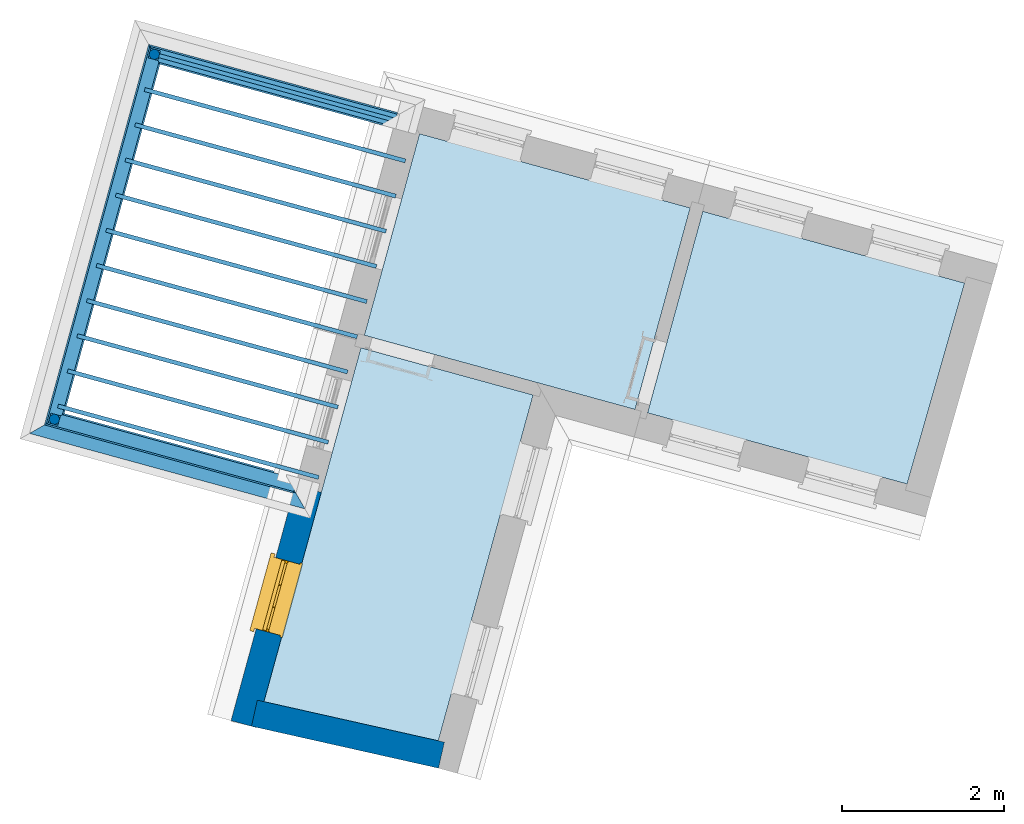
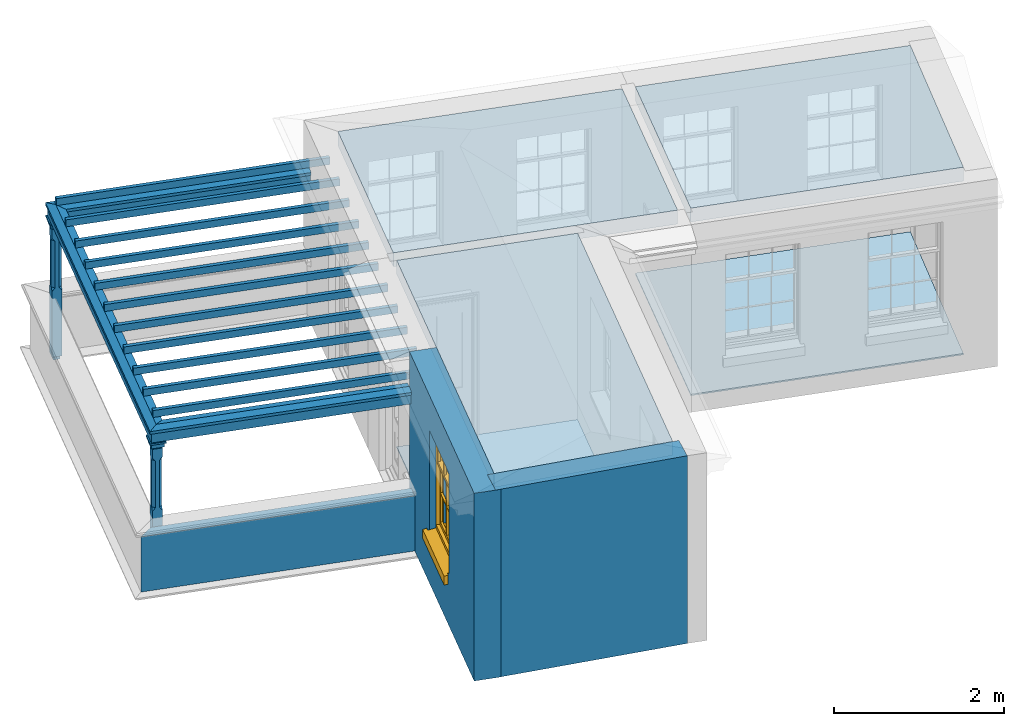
# One storey, part 1 of 5: 17 beams, 5 slabs, 3 walls, 2 columns, 1 window, 1 opening.
"""IFC4 building model written with IfcOpenShell, lengths in metres."""

from ifc_helpers import new_model, si_unit, frame, origin, origin_with_axes, place, context, subcontext, project, spatial, polyline, outline, extrude, clip, halfspace, faceted_brep, source, transform, mapped, material, layer, layer_set, layer_usage, material_profile, profile_set, profile_usage, type_object, type_shapes, element, fill, save


model = new_model("IFC4")

# Units and contexts
model_context = context("Model", 3, world=origin_with_axes())
body_context = subcontext(model_context, "Body", "Model", "MODEL_VIEW")
ifc_project = project(units=[si_unit("PLANEANGLEUNIT", "RADIAN"), si_unit("MASSUNIT", "GRAM", prefix="KILO"), si_unit("FORCEUNIT", "NEWTON", prefix="KILO"), si_unit("LENGTHUNIT", "METRE"), si_unit("AREAUNIT", "SQUARE_METRE"), si_unit("VOLUMEUNIT", "CUBIC_METRE")], contexts=[model_context, model_context])

# Sites, building, storey
site_1_placement = place(None, origin_with_axes())
site_1 = spatial("IfcSite", under=ifc_project, at=site_1_placement, Name="Tamar")
site_2_placement = place(site_1_placement, origin_with_axes())
site_2 = spatial("IfcSite", under=site_1, at=site_2_placement, Name="Site plot-29", CompositionType="ELEMENT")
building_placement = place(None, origin_with_axes())
building = spatial("IfcBuilding", under=site_2, at=building_placement, Name="Building plot-29", CompositionType="ELEMENT")
storey_placement = place(None, frame((0.0, 0.0, 30.55), z_axis=(0.0, 0.0, 1.0), x_axis=(1.0, 0.0, 0.0)))
storey = spatial("IfcBuildingStorey", under=building, at=storey_placement, Name="plot-29 2", CompositionType="ELEMENT", Elevation=30.55)

# Columns
column_type = type_object("IfcColumnType", Name="pergola post", PredefinedType="NOTDEFINED")
shared_shape_1 = source(origin(), body_context, "Body", "Brep", [
    faceted_brep([(0.0246, -0.0615, 1.72), (0.0615, -0.0246, 1.72), (0.0615, -0.0615, 1.766667), (0.0615, -0.0246, 1.044444), (0.0246, -0.0615, 1.044444), (0.0615, 0.0246, 1.72), (0.0615, 0.0615, 1.766667), (-0.0246, -0.0615, 1.72), (-0.0615, -0.0615, 1.766667), (-0.0246, -0.0615, 1.044444), (0.0615, -0.0615, 0.997778), (0.0615, 0.0246, 1.044444), (0.0246, 0.0615, 1.72), (0.0615, 0.0615, 1.891111), (0.0615, -0.0615, 1.891111), (-0.0615, -0.0615, 1.891111), (-0.0615, -0.0246, 1.72), (-0.0615, -0.0246, 1.044444), (-0.0615, -0.0615, 0.997778), (0.0615, 0.0615, 0.997778), (0.0246, 0.0615, 1.044444), (-0.0246, 0.0615, 1.72), (-0.0615, 0.0615, 1.766667), (0.04305, 0.04305, 1.891111), (0.04305, -0.04305, 1.891111), (-0.0615, 0.0615, 1.891111), (-0.04305, -0.04305, 1.891111), (-0.0615, 0.0246, 1.72), (-0.0615, 0.0246, 1.044444), (0.0615, -0.0615, 0.053333), (-0.0615, -0.0615, 0.053333), (0.0615, 0.0615, 0.053333), (-0.0246, 0.0615, 1.044444), (-0.04305, 0.04305, 1.891111), (0.04305, 0.04305, 1.914444), (0.04305, -0.04305, 1.914444), (-0.04305, -0.04305, 1.914444), (-0.0615, 0.0615, 0.997778), (-0.0615, 0.0615, 0.053333), (-0.04305, -0.04305, 0.053333), (0.04305, -0.04305, 0.053333), (0.04305, 0.04305, 0.053333), (-0.04305, 0.04305, 1.914444), (0.07995, 0.07995, 1.914444), (0.07995, -0.07995, 1.914444), (-0.07995, -0.07995, 1.914444), (-0.04305, 0.04305, 0.053333), (-0.04305, -0.04305, 0.0), (0.04305, -0.04305, 0.0), (0.04305, 0.04305, 0.0), (-0.07995, 0.07995, 1.914444), (0.07995, 0.07995, 1.976667), (0.07995, -0.07995, 1.976667), (-0.07995, -0.07995, 1.976667), (-0.04305, 0.04305, 0.0), (-0.07995, 0.07995, 1.976667), (0.0984, 0.0984, 1.976667), (0.0984, -0.0984, 1.976667), (-0.0984, -0.0984, 1.976667), (-0.0984, 0.0984, 1.976667), (0.0984, 0.0984, 2.0), (0.0984, -0.0984, 2.0), (-0.0984, -0.0984, 2.0), (-0.0984, 0.0984, 2.0)], [[[0, 1, 2]], [[3, 1, 0, 4]], [[1, 5, 6, 2]], [[7, 0, 2, 8]], [[4, 0, 7, 9]], [[3, 4, 10]], [[1, 3, 11, 5]], [[5, 12, 6]], [[13, 14, 2, 6]], [[15, 8, 2, 14]], [[8, 16, 7]], [[9, 7, 16, 17]], [[9, 18, 10, 4]], [[3, 10, 19, 11]], [[20, 12, 5, 11]], [[21, 22, 6, 12]], [[14, 13, 23, 24]], [[13, 6, 22, 25]], [[25, 22, 8, 15]], [[26, 15, 14, 24]], [[16, 8, 22, 27]], [[27, 28, 17, 16]], [[17, 18, 9]], [[29, 10, 18, 30]], [[31, 19, 10, 29]], [[20, 11, 19]], [[12, 20, 32, 21]], [[21, 27, 22]], [[33, 23, 13, 25]], [[23, 34, 35, 24]], [[26, 33, 25, 15]], [[36, 26, 24, 35]], [[28, 27, 21, 32]], [[17, 28, 37, 18]], [[38, 30, 18, 37]], [[29, 30, 39, 40]], [[31, 38, 37, 19]], [[40, 41, 31, 29]], [[32, 20, 19, 37]], [[33, 42, 34, 23]], [[43, 44, 35, 34]], [[42, 33, 26, 36]], [[36, 35, 44, 45]], [[28, 32, 37]], [[46, 39, 30, 38]], [[39, 47, 48, 40]], [[46, 38, 31, 41]], [[49, 41, 40, 48]], [[43, 34, 42, 50]], [[43, 51, 52, 44]], [[45, 50, 42, 36]], [[53, 45, 44, 52]], [[46, 54, 47, 39]], [[54, 46, 41, 49]], [[50, 55, 51, 43]], [[56, 57, 52, 51]], [[55, 50, 45, 53]], [[53, 52, 57, 58]], [[56, 51, 55, 59]], [[56, 60, 61, 57]], [[58, 59, 55, 53]], [[62, 58, 57, 61]], [[59, 63, 60, 56]], [[63, 62, 61, 60]], [[58, 62, 63, 59]], [[47, 54, 49, 48]]]),
])
type_shapes(column_type, [shared_shape_1])
for number, where, z_axis, x_axis, name in (
    (1, (271.068303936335, 266.055136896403, 0.0), (0.0, 0.0, 1.0), (-0.264255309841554, -0.964452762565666, 0.0), "pergola post"),
    (2, (269.834483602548, 261.552062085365, 0.0), (0.0, 0.0, 1.0), (0.96445276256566, -0.264255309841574, 0.0), "pergola post"),
):
    element("IfcColumn", number, at=place(storey_placement, frame(where, z_axis=z_axis, x_axis=x_axis)), inside=storey, type_object=column_type, Name=name, context=body_context, shape_type="MappedRepresentation", body=[
        mapped(shared_shape_1, transform((0.0, 0.0, 0.0), scale=1.0)),
    ])

# Beams
ifc_material_profile_1 = material_profile(None, outline(polyline([(-0.08, -0.7), (0.08, -0.7), (0.08, -0.56), (-0.08, -0.56), (-0.08, -0.7)])))
ifc_profile_set_1 = profile_set([ifc_material_profile_1])
ifc_profile_usage_1 = profile_usage(ifc_profile_set_1)
beam_type_1 = type_object("IfcBeamType", Name="pergola beam_0", PredefinedType="NOTDEFINED", material=ifc_profile_set_1)
beam_1_placement = place(storey_placement, frame((270.103851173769, 266.319392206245, 2.7), z_axis=(0.964452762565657, -0.264255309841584, 0.0), x_axis=(0.264255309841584, 0.964452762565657, 0.0)))
element("IfcBeam", 3, at=beam_1_placement, inside=storey, type_object=beam_type_1, material=ifc_profile_usage_1, Name="pergola beam_0", context=body_context, shape_type="Clipping", body=[
    clip(clip(extrude(outline(polyline([(-0.08, -0.7), (0.08, -0.7), (0.08, -0.56), (-0.08, -0.56), (-0.08, -0.7)])), origin_with_axes(), (0.0, 0.0, 1.0), 5.08559293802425), halfspace(frame((0.0, 0.0, 4.08559293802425), z_axis=(2.60330291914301e-15, 0.0, -1.0), x_axis=(0.0, 1.0, 0.0)), True)), halfspace(frame((0.0, 0.0, 1.0), z_axis=(-0.707106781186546, 0.0, -0.707106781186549), x_axis=(0.0, 1.0, 0.0)), False)),
])
ifc_profile_usage_2 = profile_usage(ifc_profile_set_1)
beam_2_placement = place(storey_placement, frame((269.570228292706, 260.587609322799, 2.7), z_axis=(0.264255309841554, 0.964452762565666, 0.0), x_axis=(-0.964452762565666, 0.264255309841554, 0.0)))
element("IfcBeam", 4, at=beam_2_placement, inside=storey, type_object=beam_type_1, material=ifc_profile_usage_2, Name="pergola beam_0", context=body_context, shape_type="Clipping", body=[
    clip(clip(extrude(outline(polyline([(-0.08, -0.7), (0.08, -0.7), (0.08, -0.56), (-0.08, -0.56), (-0.08, -0.7)])), origin_with_axes(), (0.0, 0.0, 1.0), 6.66904651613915), halfspace(frame((0.0, 0.0, 5.66904651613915), z_axis=(0.707106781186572, 0.0, -0.707106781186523), x_axis=(0.0, 1.0, 0.0)), True)), halfspace(frame((0.0, 0.0, 1.0), z_axis=(-0.707106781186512, 0.0, -0.707106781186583), x_axis=(0.0, 1.0, 0.0)), False)),
])
ifc_profile_usage_3 = profile_usage(ifc_profile_set_1)
beam_3_placement = place(storey_placement, frame((273.774844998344, 260.472422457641, 2.7), z_axis=(-0.964452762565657, 0.264255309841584, 0.0), x_axis=(-0.264255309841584, -0.964452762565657, 0.0)))
element("IfcBeam", 5, at=beam_3_placement, inside=storey, type_object=beam_type_1, material=ifc_profile_usage_3, Name="pergola beam_0", context=body_context, shape_type="Clipping", body=[
    clip(clip(extrude(outline(polyline([(-0.08, -0.7), (0.08, -0.7), (0.08, -0.56), (-0.08, -0.56), (-0.08, -0.7)])), origin_with_axes(), (0.0, 0.0, 1.0), 5.08559293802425), halfspace(frame((0.0, 0.0, 4.08559293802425), z_axis=(0.707106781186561, 0.0, -0.707106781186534), x_axis=(0.0, 1.0, 0.0)), True)), halfspace(frame((0.0, 0.0, 1.0), z_axis=(3.2694367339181e-15, 0.0, -1.0), x_axis=(0.0, 1.0, 0.0)), False)),
])
ifc_material_profile_2 = material_profile(None, outline(polyline([(0.0, -0.5), (-0.1, -0.52), (-0.1, -0.56), (0.1, -0.56), (0.1, -0.52), (0.0, -0.5)])))
ifc_profile_set_2 = profile_set([ifc_material_profile_2])
ifc_profile_usage_4 = profile_usage(ifc_profile_set_2)
beam_type_2 = type_object("IfcBeamType", Name="pergola beam_1", PredefinedType="NOTDEFINED", material=ifc_profile_set_2)
beam_4_placement = place(storey_placement, frame((270.103851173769, 266.319392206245, 2.7), z_axis=(0.964452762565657, -0.264255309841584, 0.0), x_axis=(0.264255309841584, 0.964452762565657, 0.0)))
element("IfcBeam", 6, at=beam_4_placement, inside=storey, type_object=beam_type_2, material=ifc_profile_usage_4, Name="pergola beam_1", context=body_context, shape_type="Clipping", body=[
    clip(clip(extrude(outline(polyline([(0.0, -0.5), (-0.1, -0.52), (-0.1, -0.56), (0.1, -0.56), (0.1, -0.52), (0.0, -0.5)])), origin_with_axes(), (0.0, 0.0, 1.0), 5.08559293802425), halfspace(frame((0.0, 0.0, 4.08559293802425), z_axis=(2.60330291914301e-15, 0.0, -1.0), x_axis=(0.0, 1.0, 0.0)), True)), halfspace(frame((0.0, 0.0, 1.0), z_axis=(-0.707106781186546, 0.0, -0.707106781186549), x_axis=(0.0, 1.0, 0.0)), False)),
])
ifc_profile_usage_5 = profile_usage(ifc_profile_set_2)
beam_5_placement = place(storey_placement, frame((269.570228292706, 260.587609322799, 2.7), z_axis=(0.264255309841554, 0.964452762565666, 0.0), x_axis=(-0.964452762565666, 0.264255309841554, 0.0)))
element("IfcBeam", 7, at=beam_5_placement, inside=storey, type_object=beam_type_2, material=ifc_profile_usage_5, Name="pergola beam_1", context=body_context, shape_type="Clipping", body=[
    clip(clip(extrude(outline(polyline([(0.0, -0.5), (-0.1, -0.52), (-0.1, -0.56), (0.1, -0.56), (0.1, -0.52), (0.0, -0.5)])), origin_with_axes(), (0.0, 0.0, 1.0), 6.66904651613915), halfspace(frame((0.0, 0.0, 5.66904651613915), z_axis=(0.707106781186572, 0.0, -0.707106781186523), x_axis=(0.0, 1.0, 0.0)), True)), halfspace(frame((0.0, 0.0, 1.0), z_axis=(-0.707106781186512, 0.0, -0.707106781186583), x_axis=(0.0, 1.0, 0.0)), False)),
])
ifc_profile_usage_6 = profile_usage(ifc_profile_set_2)
beam_6_placement = place(storey_placement, frame((273.774844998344, 260.472422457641, 2.7), z_axis=(-0.964452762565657, 0.264255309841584, 0.0), x_axis=(-0.264255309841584, -0.964452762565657, 0.0)))
element("IfcBeam", 8, at=beam_6_placement, inside=storey, type_object=beam_type_2, material=ifc_profile_usage_6, Name="pergola beam_1", context=body_context, shape_type="Clipping", body=[
    clip(clip(extrude(outline(polyline([(0.0, -0.5), (-0.1, -0.52), (-0.1, -0.56), (0.1, -0.56), (0.1, -0.52), (0.0, -0.5)])), origin_with_axes(), (0.0, 0.0, 1.0), 5.08559293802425), halfspace(frame((0.0, 0.0, 4.08559293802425), z_axis=(0.707106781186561, 0.0, -0.707106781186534), x_axis=(0.0, 1.0, 0.0)), True)), halfspace(frame((0.0, 0.0, 1.0), z_axis=(3.2694367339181e-15, 0.0, -1.0), x_axis=(0.0, 1.0, 0.0)), False)),
])
beam_7_placement = place(storey_placement, frame((271.074910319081, 266.079248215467, 2.2)))
element("IfcBeam", 9, at=beam_7_placement, inside=storey, Name="My Beam", ObjectType="Beam", context=body_context, shape_type="SweptSolid", body=[
    extrude(outline(polyline([(0.0, 0.0), (-0.0132127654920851, -0.0482226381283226), (3.20380905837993, -0.929670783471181), (3.21702182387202, -0.881448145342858), (0.0, 0.0)])), origin_with_axes(), (0.0, 0.0, 1.0), 0.1),
])
beam_8_placement = place(storey_placement, frame((270.955995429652, 265.645244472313, 2.2)))
element("IfcBeam", 10, at=beam_8_placement, inside=storey, Name="My Beam", ObjectType="Beam", context=body_context, shape_type="SweptSolid", body=[
    extrude(outline(polyline([(0.0, 0.0), (-0.0132127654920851, -0.0482226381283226), (3.20380905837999, -0.929670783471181), (3.21702182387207, -0.881448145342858), (0.0, 0.0)])), origin_with_axes(), (0.0, 0.0, 1.0), 0.1),
])
beam_9_placement = place(storey_placement, frame((270.837080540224, 265.211240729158, 2.2)))
element("IfcBeam", 11, at=beam_9_placement, inside=storey, Name="My Beam", ObjectType="Beam", context=body_context, shape_type="SweptSolid", body=[
    extrude(outline(polyline([(0.0, 0.0), (-0.0132127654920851, -0.0482226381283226), (3.20380905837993, -0.929670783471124), (3.21702182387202, -0.881448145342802), (0.0, 0.0)])), origin_with_axes(), (0.0, 0.0, 1.0), 0.1),
])
beam_10_placement = place(storey_placement, frame((270.718165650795, 264.777236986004, 2.2)))
element("IfcBeam", 12, at=beam_10_placement, inside=storey, Name="My Beam", ObjectType="Beam", context=body_context, shape_type="SweptSolid", body=[
    extrude(outline(polyline([(0.0, 0.0), (-0.0132127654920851, -0.0482226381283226), (3.20380905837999, -0.929670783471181), (3.21702182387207, -0.881448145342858), (0.0, 0.0)])), origin_with_axes(), (0.0, 0.0, 1.0), 0.1),
])
for number, where, name in (
    (13, (270.599250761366, 264.343233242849, 2.2), "My Beam"),
    (14, (270.480335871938, 263.909229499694, 2.2), "My Beam"),
):
    element("IfcBeam", number, at=place(storey_placement, frame(where)), inside=storey, Name=name, ObjectType="Beam", context=body_context, shape_type="SweptSolid", body=[
        extrude(outline(polyline([(0.0, 0.0), (-0.0132127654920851, -0.0482226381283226), (3.20380905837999, -0.929670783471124), (3.21702182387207, -0.881448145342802), (0.0, 0.0)])), origin_with_axes(), (0.0, 0.0, 1.0), 0.1),
    ])
beam_11_placement = place(storey_placement, frame((270.361420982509, 263.47522575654, 2.2)))
element("IfcBeam", 15, at=beam_11_placement, inside=storey, Name="My Beam", ObjectType="Beam", context=body_context, shape_type="SweptSolid", body=[
    extrude(outline(polyline([(0.0, 0.0), (-0.0132127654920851, -0.0482226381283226), (3.20380905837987, -0.929670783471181), (3.21702182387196, -0.881448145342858), (0.0, 0.0)])), origin_with_axes(), (0.0, 0.0, 1.0), 0.1),
])
beam_12_placement = place(storey_placement, frame((270.24250609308, 263.041222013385, 2.2)))
element("IfcBeam", 16, at=beam_12_placement, inside=storey, Name="My Beam", ObjectType="Beam", context=body_context, shape_type="SweptSolid", body=[
    extrude(outline(polyline([(0.0, 0.0), (-0.0132127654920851, -0.0482226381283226), (3.20380905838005, -0.929670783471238), (3.21702182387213, -0.881448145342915), (0.0, 0.0)])), origin_with_axes(), (0.0, 0.0, 1.0), 0.1),
])
beam_13_placement = place(storey_placement, frame((270.123591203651, 262.607218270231, 2.2)))
element("IfcBeam", 17, at=beam_13_placement, inside=storey, Name="My Beam", ObjectType="Beam", context=body_context, shape_type="SweptSolid", body=[
    extrude(outline(polyline([(0.0, 0.0), (-0.0132127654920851, -0.0482226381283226), (3.20380905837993, -0.929670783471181), (3.21702182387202, -0.881448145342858), (0.0, 0.0)])), origin_with_axes(), (0.0, 0.0, 1.0), 0.1),
])
for number, where, name in (
    (18, (270.004676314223, 262.173214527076, 2.2), "My Beam"),
    (19, (269.885761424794, 261.739210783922, 2.2), "My Beam"),
):
    element("IfcBeam", number, at=place(storey_placement, frame(where)), inside=storey, Name=name, ObjectType="Beam", context=body_context, shape_type="SweptSolid", body=[
        extrude(outline(polyline([(0.0, 0.0), (-0.0132127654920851, -0.0482226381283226), (3.20380905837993, -0.929670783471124), (3.21702182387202, -0.881448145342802), (0.0, 0.0)])), origin_with_axes(), (0.0, 0.0, 1.0), 0.1),
    ])

# Slabs
slab_1_placement = place(storey_placement, frame((275.742884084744, 261.851314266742, 2.5)))
element("IfcSlab", 20, at=slab_1_placement, inside=storey, Name="My Slab", ObjectType="Slab", PredefinedType="FLOOR", context=body_context, shape_type="SweptSolid", body=[
    extrude(outline(polyline([(0.0, 0.0), (-2.12536575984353, 0.58233975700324), (-3.3218194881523, -3.78435813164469), (-1.16918607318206, -4.26717911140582), (0.0, 0.0)])), origin_with_axes(), (0.0, 0.0, 1.0), 0.2),
])
slab_2_placement = place(storey_placement, frame((275.742884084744, 261.851314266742, 0.0)))
element("IfcSlab", 21, at=slab_2_placement, inside=storey, Name="My Slab", ObjectType="Slab", PredefinedType="FLOOR", context=body_context, shape_type="SweptSolid", body=[
    extrude(outline(polyline([(0.0, 0.0), (-2.12536575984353, 0.58233975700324), (-3.3218194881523, -3.78435813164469), (-1.16918607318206, -4.26717911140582), (0.0, 0.0)])), origin_with_axes(), (0.0, 0.0, 1.0), 0.02),
])
slab_3_placement = place(storey_placement, frame((273.659799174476, 262.587966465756, 2.5)))
element("IfcSlab", 22, at=slab_3_placement, inside=storey, Name="My Slab", ObjectType="Slab", PredefinedType="FLOOR", context=body_context, shape_type="SweptSolid", body=[
    extrude(outline(polyline([(0.0, 0.0), (3.34068647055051, -0.915331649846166), (4.02222885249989, 1.57209398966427), (0.681542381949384, 2.48742563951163), (0.0, 0.0)])), origin_with_axes(), (0.0, 0.0, 1.0), 0.2),
])
slab_4_placement = place(storey_placement, frame((280.358705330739, 260.752499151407, 2.5)))
element("IfcSlab", 23, at=slab_4_placement, inside=storey, Name="My Slab", ObjectType="Slab", PredefinedType="FLOOR", context=body_context, shape_type="SweptSolid", body=[
    extrude(outline(polyline([(0.0, 0.0), (0.709545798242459, 2.47975284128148), (-2.52236486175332, 3.36528045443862), (-3.20390724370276, 0.877854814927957), (0.0, 0.0)])), origin_with_axes(), (0.0, 0.0, 1.0), 0.2),
])
slab_5_placement = place(storey_placement, frame((280.358705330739, 260.752499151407, 0.0)))
element("IfcSlab", 24, at=slab_5_placement, inside=storey, Name="My Slab", ObjectType="Slab", PredefinedType="FLOOR", context=body_context, shape_type="SweptSolid", body=[
    extrude(outline(polyline([(0.0, 0.0), (0.709545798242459, 2.47975284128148), (-2.52236486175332, 3.36528045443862), (-3.20390724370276, 0.877854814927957), (0.0, 0.0)])), origin_with_axes(), (0.0, 0.0, 1.0), 0.02),
])

# Wall, opening, window
ifc_material_1 = material(Name="Masonry")
ifc_layer_1 = layer(ifc_material_1, 0.33, ventilated=False)
ifc_layer_set_1 = layer_set([ifc_layer_1], Name="exterior_0.08_0.25")
ifc_layer_usage_1 = layer_usage(ifc_layer_set_1, "AXIS2", "POSITIVE", -0.25)
wall_type_1 = type_object("IfcWallType", Name="exterior_0.08_0.25", PredefinedType="SOLIDWALL", material=ifc_layer_set_1)
wall_1_placement = place(storey_placement, frame((273.05150542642, 260.670613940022, 0.0), z_axis=(0.0, 0.0, 1.0), x_axis=(-0.264255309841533, -0.964452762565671, 0.0)))
wall_1 = element("IfcWall", 25, at=wall_1_placement, inside=storey, type_object=wall_type_1, material=ifc_layer_usage_1, Name="exterior", context=body_context, shape_type="SweptSolid", body=[
    extrude(outline(polyline([(3.14623474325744e-14, 0.0799999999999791), (-4.91675719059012e-14, -0.24999999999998), (3.01153589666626, -0.250000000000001), (3.01153589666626, 0.0800000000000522), (3.14623474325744e-14, 0.0799999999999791)])), origin_with_axes(), (0.0, 0.0, 1.0), 2.7),
])
opening_placement = place(wall_1_placement, frame((0.925767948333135, 0.0, 0.75)))
opening = element("IfcOpeningElement", 26, at=opening_placement, cuts=wall_1, Name="My Opening", ObjectType="Opening", context=body_context, shape_type="SweptSolid", body=[
    extrude(outline(polyline([(0.0, -0.270000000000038), (0.910000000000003, -0.269999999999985), (0.909999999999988, 1.10000000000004), (-1.37667655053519e-14, 1.09999999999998), (0.0, -0.270000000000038)])), origin_with_axes(), (0.0, 0.0, 1.0), 1.445),
])
window_type = type_object("IfcWindowType", Name="sash_shorter", PartitioningType="DOUBLE_PANEL_HORIZONTAL", PredefinedType="NOTDEFINED")
shared_shape_2 = source(origin(), body_context, "Body", "Brep", [
    faceted_brep([(0.876875, 0.145, 0.999097), (0.876875, 0.145, 1.411875), (0.9, 0.145, 1.435), (0.033125, 0.145, 1.411875), (0.033125, 0.145, 0.999097), (0.01, 0.145, 1.435), (0.033125, 0.115, 1.411875), (0.01, 0.115, 1.435), (0.033125, 0.115, 0.999097), (0.876875, 0.115, 1.411875), (0.876875, 0.115, 0.999097), (0.9, 0.115, 1.435), (0.033125, 0.145, 0.960972), (0.01, 0.145, 0.960972), (0.033125, 0.145, 0.548195), (0.876875, 0.145, 0.960972), (0.876875, 0.145, 0.548195), (0.9, 0.145, 0.960972), (0.876875, 0.145, 0.538195), (0.876875, 0.145, 0.125417), (0.9, 0.145, 0.077167), (0.033125, 0.145, 0.125417), (0.033125, 0.145, 0.538195), (0.01, 0.145, 0.077167), (0.9, 0.115, 0.960972), (0.01, 0.115, 0.960972), (-0.0425, 0.0, 0.01), (-0.0425, -0.05, 0.001667), (0.0, 0.0, 0.01), (0.9525, 0.0, 0.01), (0.91, 0.0, 0.01), (0.9525, -0.05, 0.001667), (-0.02, 0.33, 0.077167), (0.0, 0.33, 0.077167), (-0.02, 0.36, 0.077167), (0.0, 0.19, 0.077167), (0.01, 0.19, 0.077167), (0.91, 0.19, 0.077167), (0.91, 0.33, 0.077167), (0.9, 0.19, 0.077167), (0.93, 0.33, 0.077167), (0.93, 0.36, 0.077167), (0.01, 0.145, 0.999097), (0.01, 0.175, 0.999097), (0.9, 0.145, 0.999097), (0.9, 0.175, 0.999097), (0.876875, 0.175, 0.125417), (0.876875, 0.175, 0.538195), (0.9, 0.175, 0.077167), (0.876875, 0.175, 0.548195), (0.876875, 0.175, 0.960972), (0.033125, 0.175, 0.125417), (0.01, 0.175, 0.077167), (0.033125, 0.175, 0.538195), (0.033125, 0.175, 0.960972), (0.033125, 0.175, 0.548195), (-0.02, 0.33, 0.052167), (-0.02, 0.36, 0.052167), (0.93, 0.36, 0.052167), (0.93, 0.33, 0.052167), (0.91, 0.33, 0.052167), (0.0, 0.33, 0.052167), (0.91, 0.1, 0.026667), (0.0, 0.1, 0.026667), (-0.0425, -0.05, -0.123333), (0.9525, -0.05, -0.123333), (-0.0425, 0.0, -0.123333), (0.9525, 0.0, -0.123333), (0.01, 0.19, 1.435), (0.9, 0.19, 1.435), (0.0, 0.19, 1.445), (0.91, 0.19, 1.445), (0.01, 0.1, 0.077167), (0.9, 0.1, 0.077167), (0.592292, 0.145, 0.125417), (0.592292, 0.175, 0.125417), (0.317708, 0.175, 0.125417), (0.317708, 0.145, 0.125417), (0.592292, 0.145, 0.548195), (0.317708, 0.145, 0.548195), (0.317708, 0.145, 0.538195), (0.592292, 0.145, 0.538195), (0.592292, 0.175, 0.548195), (0.317708, 0.175, 0.548195), (0.602292, 0.175, 0.548195), (0.602292, 0.145, 0.548195), (0.317708, 0.175, 0.538195), (0.307708, 0.175, 0.125417), (0.307708, 0.175, 0.538195), (0.602292, 0.175, 0.538195), (0.602292, 0.175, 0.125417), (0.592292, 0.175, 0.538195), (0.307708, 0.175, 0.548195), (0.317708, 0.175, 0.960972), (0.307708, 0.175, 0.960972), (0.602292, 0.175, 0.960972), (0.592292, 0.175, 0.960972), (0.307708, 0.145, 0.538195), (0.307708, 0.145, 0.125417), (0.307708, 0.145, 0.548195), (0.307708, 0.145, 0.960972), (0.592292, 0.145, 0.960972), (0.317708, 0.145, 0.960972), (0.602292, 0.145, 0.960972), (0.602292, 0.145, 0.538195), (0.602292, 0.145, 0.125417), (0.317708, 0.115, 1.411875), (0.307708, 0.115, 1.411875), (0.307708, 0.115, 0.999097), (0.317708, 0.115, 0.999097), (0.602292, 0.115, 1.411875), (0.592292, 0.115, 1.411875), (0.592292, 0.115, 0.999097), (0.602292, 0.115, 0.999097), (0.317708, 0.145, 0.999097), (0.307708, 0.145, 0.999097), (0.307708, 0.145, 1.411875), (0.317708, 0.145, 1.411875), (0.602292, 0.145, 0.999097), (0.592292, 0.145, 0.999097), (0.592292, 0.145, 1.411875), (0.602292, 0.145, 1.411875), (0.91, 0.1, 1.445), (0.9, 0.1, 1.435), (0.01, 0.1, 1.435), (0.0, 0.1, 1.445), (0.91, 0.0, 0.0), (0.0, 0.0, 0.0), (0.91, 0.33, 0.0), (0.0, 0.33, 0.0)], [[[0, 1, 2]], [[3, 4, 5]], [[6, 7, 8]], [[9, 10, 11]], [[12, 13, 14]], [[15, 16, 17]], [[18, 19, 20]], [[21, 22, 23]], [[24, 15, 17]], [[13, 12, 25]], [[26, 27, 28]], [[29, 30, 31]], [[32, 33, 34]], [[35, 36, 33]], [[37, 38, 39]], [[40, 41, 38]], [[42, 4, 43]], [[44, 45, 0]], [[46, 47, 48]], [[49, 50, 45]], [[51, 52, 53]], [[54, 55, 43]], [[38, 33, 36, 39]], [[41, 34, 33, 38]], [[56, 32, 34, 57]], [[57, 34, 41, 58]], [[58, 41, 40, 59]], [[57, 58, 60, 61]], [[52, 48, 39, 36]], [[62, 63, 28, 30]], [[27, 31, 30, 28]], [[27, 64, 65, 31]], [[66, 67, 65, 64]], [[2, 5, 68, 69]], [[68, 70, 71, 69]], [[20, 23, 72, 73]], [[73, 72, 63, 62]], [[74, 75, 76, 77]], [[78, 79, 80, 81]], [[78, 82, 83, 79]], [[16, 49, 84, 85]], [[86, 76, 87, 88]], [[89, 90, 75, 91]], [[92, 88, 53, 55]], [[82, 91, 86, 83]], [[93, 83, 92, 94]], [[95, 84, 82, 96]], [[89, 84, 49, 47]], [[97, 88, 87, 98]], [[22, 53, 88, 97]], [[81, 91, 75, 74]], [[80, 86, 91, 81]], [[77, 76, 86, 80]], [[99, 92, 55, 14]], [[100, 94, 92, 99]], [[101, 96, 82, 78]], [[79, 83, 93, 102]], [[85, 84, 95, 103]], [[104, 89, 47, 18]], [[105, 90, 89, 104]], [[104, 18, 16, 85]], [[80, 97, 98, 77]], [[104, 81, 74, 105]], [[103, 101, 78, 85]], [[99, 14, 22, 97]], [[102, 100, 99, 79]], [[106, 107, 108, 109]], [[110, 111, 112, 113]], [[114, 115, 116, 117]], [[118, 119, 120, 121]], [[107, 116, 115, 108]], [[111, 120, 119, 112]], [[109, 114, 117, 106]], [[113, 118, 121, 110]], [[85, 78, 81, 104]], [[84, 89, 91, 82]], [[83, 86, 88, 92]], [[79, 99, 97, 80]], [[109, 112, 119, 114]], [[102, 93, 96, 101]], [[106, 117, 120, 111]], [[98, 87, 51, 21]], [[6, 3, 116, 107]], [[110, 121, 1, 9]], [[19, 46, 90, 105]], [[26, 66, 64, 27]], [[29, 31, 65, 67]], [[25, 24, 112, 109]], [[11, 7, 106, 111]], [[75, 48, 52, 76]], [[43, 45, 96, 93]], [[45, 43, 114, 119]], [[5, 2, 120, 117]], [[24, 25, 102, 101]], [[42, 5, 4]], [[2, 44, 0]], [[49, 45, 48, 47]], [[52, 43, 55, 53]], [[14, 13, 23, 22]], [[20, 17, 16, 18]], [[24, 11, 10]], [[25, 8, 7]], [[8, 4, 3, 6]], [[9, 1, 0, 10]], [[15, 50, 49, 16]], [[18, 47, 46, 19]], [[21, 51, 53, 22]], [[14, 55, 54, 12]], [[44, 2, 69, 45]], [[68, 5, 42, 43]], [[36, 35, 70, 68]], [[39, 69, 71, 37]], [[62, 122, 123, 73]], [[63, 72, 124, 125]], [[8, 108, 115, 4]], [[113, 10, 0, 118]], [[94, 100, 12, 54]], [[17, 20, 73, 24]], [[72, 23, 13, 25]], [[52, 36, 68, 43]], [[69, 39, 48, 45]], [[11, 24, 73, 123]], [[7, 124, 72, 25]], [[23, 77, 98]], [[98, 21, 23]], [[105, 74, 20]], [[20, 19, 105]], [[20, 74, 77, 23]], [[113, 112, 24]], [[24, 10, 113]], [[25, 109, 108]], [[108, 8, 25]], [[110, 9, 11]], [[11, 111, 110]], [[7, 6, 107]], [[107, 106, 7]], [[5, 117, 116]], [[116, 3, 5]], [[121, 120, 2]], [[2, 1, 121]], [[11, 123, 124, 7]], [[122, 125, 124, 123]], [[43, 93, 94]], [[94, 54, 43]], [[96, 45, 95]], [[50, 95, 45]], [[15, 103, 95, 50]], [[48, 75, 90]], [[90, 46, 48]], [[87, 76, 52]], [[52, 51, 87]], [[103, 15, 24]], [[24, 101, 103]], [[100, 102, 25]], [[25, 12, 100]], [[115, 114, 43]], [[43, 4, 115]], [[118, 0, 45]], [[45, 119, 118]], [[71, 70, 125, 122]], [[70, 35, 63, 125]], [[122, 62, 37, 71]], [[126, 67, 66, 127]], [[60, 58, 59]], [[38, 60, 59, 40]], [[61, 56, 57]], [[32, 56, 61, 33]], [[61, 60, 128, 129]], [[62, 60, 38, 37]], [[126, 128, 60, 62]], [[33, 61, 63, 35]], [[61, 129, 127, 63]], [[128, 126, 127, 129]], [[28, 127, 66, 26]], [[63, 127, 28]], [[29, 67, 126, 30]], [[30, 126, 62]]]),
])
type_shapes(window_type, [shared_shape_2])
window_placement = place(storey_placement, frame((272.546464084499, 259.849103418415, 0.75), z_axis=(0.0, 0.0, 1.0), x_axis=(-0.240472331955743, -0.877652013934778, 0.0)))
window = element("IfcWindow", 27, at=window_placement, inside=storey, type_object=window_type, Name="bedroom outside window", OverallHeight=1.445, OverallWidth=0.91, context=body_context, shape_type="MappedRepresentation", body=[
    mapped(shared_shape_2, transform((0.0, 0.0, 0.0), scale=1.0)),
])
fill(opening, window)

# Walls
ifc_material_2 = material(Name="Masonry")
ifc_layer_2 = layer(ifc_material_2, 0.33, ventilated=False)
ifc_layer_set_2 = layer_set([ifc_layer_2], Name="party_0.08_0.25")
ifc_layer_usage_2 = layer_usage(ifc_layer_set_2, "AXIS2", "POSITIVE", -0.25)
wall_type_2 = type_object("IfcWallType", Name="party_0.08_0.25", PredefinedType="SOLIDWALL", material=ifc_layer_set_2)
wall_2_placement = place(storey_placement, frame((272.321754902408, 258.007243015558, 0.0), z_axis=(0.0, 0.0, 1.0), x_axis=(0.975757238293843, -0.218855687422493, 0.0)))
element("IfcWall", 28, at=wall_2_placement, inside=storey, type_object=wall_type_2, material=ifc_layer_usage_2, Name="party", context=body_context, shape_type="SweptSolid", body=[
    extrude(outline(polyline([(-1.04756067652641e-14, 0.0799999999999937), (-9.5938422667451e-15, -0.250000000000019), (2.36629105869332, -0.250000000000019), (2.36629105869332, 0.0799999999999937), (-1.04756067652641e-14, 0.0799999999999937)])), origin_with_axes(), (0.0, 0.0, 1.0), 2.7),
])
ifc_material_profile_3 = material_profile(None, outline(polyline([(0.25, 0.0), (0.25, 0.795), (0.09, 0.795), (0.09, 0.02), (-0.08, 0.02), (-0.08, 0.0), (0.25, 0.0)])))
ifc_profile_set_3 = profile_set([ifc_material_profile_3])
ifc_profile_usage_7 = profile_usage(ifc_profile_set_3)
wall_type_3 = type_object("IfcWallType", Name="parapet_0", PredefinedType="PARAPET", material=ifc_profile_set_3)
wall_3_placement = place(storey_placement, frame((273.71697783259, 260.488277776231, 0.0), z_axis=(-0.96445276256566, 0.264255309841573, 0.0), x_axis=(-0.264255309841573, -0.96445276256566, 0.0)))
element("IfcWall", 29, at=wall_3_placement, inside=storey, type_object=wall_type_3, material=ifc_profile_usage_7, Name="parapet_0", context=body_context, shape_type="Clipping", body=[
    clip(clip(extrude(outline(polyline([(0.25, 0.0), (0.25, 0.795), (0.09, 0.795), (0.09, 0.02), (-0.08, 0.02), (-0.08, 0.0), (0.25, 0.0)])), origin_with_axes(), (0.0, 0.0, 1.0), 5.02559293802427), halfspace(frame((0.0, 0.0, 4.02559293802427), z_axis=(0.707106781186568, 0.0, -0.707106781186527), x_axis=(0.0, 1.0, 0.0)), True)), halfspace(frame((0.0, 0.0, 1.0), z_axis=(-0.707106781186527, 0.0, -0.707106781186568), x_axis=(0.0, 1.0, 0.0)), False)),
])

save(model, "model.ifc")
